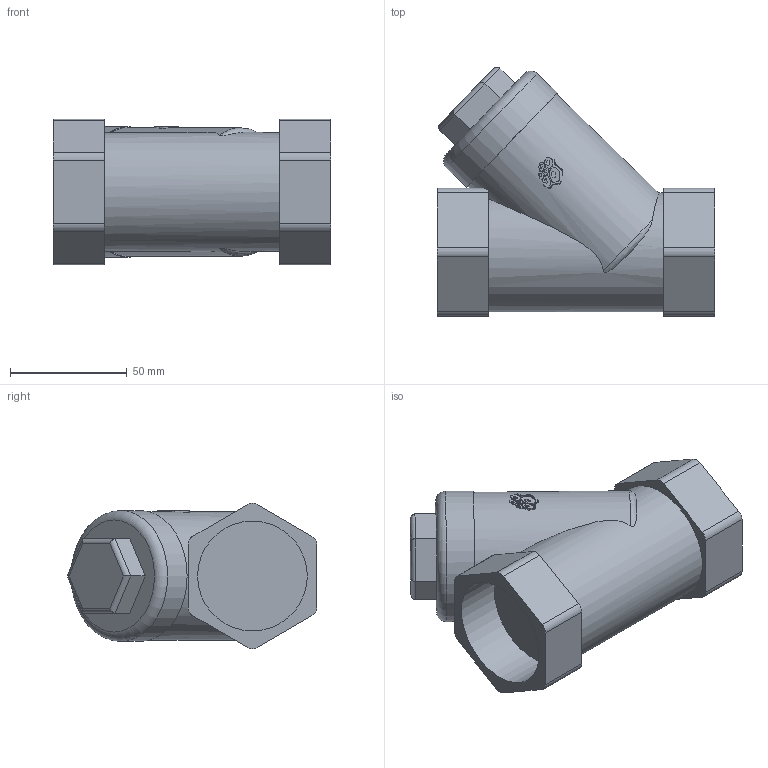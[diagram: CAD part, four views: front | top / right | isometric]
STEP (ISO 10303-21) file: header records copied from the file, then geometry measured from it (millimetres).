
FILE_DESCRIPTION(('STEP AP203'), '1');
FILE_NAME('3D_6460-040-40', '', ('UNSPECIFIED'), ('UNSPECIFIED'), 'C3D Converter', 'C3D Toolkit', '');
FILE_SCHEMA(('CONFIG_CONTROL_DESIGN'));
Length unit declared in the file: millimetre
Bounding box: 119 x 106.75 x 62.27 mm (x, y, z)
Volume: 339930.3 mm3; surface area: 42380 mm2
Topology: 1 solids, 1 shells, 880 faces, 2575 edges, 1716 vertices
Faces by surface type: plane 848, cylinder 29, torus 3
Full cylindrical faces by diameter (mm): 47 x2, 51 x1, 55 x1, 56 x1
Entity records: 36280 total; most frequent: CARTESIAN_POINT 8196, ORIENTED_EDGE 5138, DIRECTION 3564, EDGE_CURVE 2569, VERTEX_POINT 1716, LINE 1716, VECTOR 1716, AXIS2_PLACEMENT_3D 924
